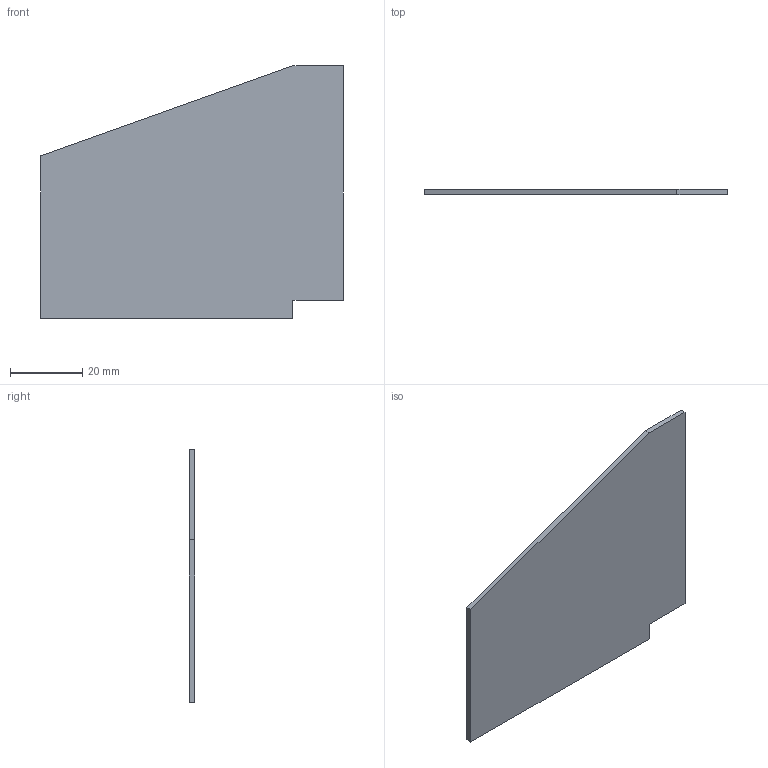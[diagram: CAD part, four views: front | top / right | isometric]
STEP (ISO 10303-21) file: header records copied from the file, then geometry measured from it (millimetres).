
FILE_DESCRIPTION(/* description */ (''),/* implementation_level */ '2;1');
FILE_NAME(/* name */ 'Flosse.stp',/* time_stamp */ '2026-03-30T18:56:50+02:00',/* author */ ('rs22sud'),/* organization */ (''),/* preprocessor_version */ 'ST-DEVELOPER v20.1',/* originating_system */ 'Autodesk Inventor 2026',/* authorisation */ '');
FILE_SCHEMA (('AUTOMOTIVE_DESIGN { 1 0 10303 214 3 1 1 }'));
Length unit declared in the file: millimetre
Products named in the file (1): Delta_2_60mm
Bounding box: 84 x 1.5 x 70 mm (x, y, z)
Volume: 7402.5 mm3; surface area: 10301 mm2
Topology: 1 solids, 1 shells, 9 faces, 21 edges, 14 vertices
Faces by surface type: plane 9
Entity records: 334 total; most frequent: CARTESIAN_POINT 45, ORIENTED_EDGE 42, DIRECTION 41, LINE 21, VECTOR 21, EDGE_CURVE 21, VERTEX_POINT 14, AXIS2_PLACEMENT_3D 10
